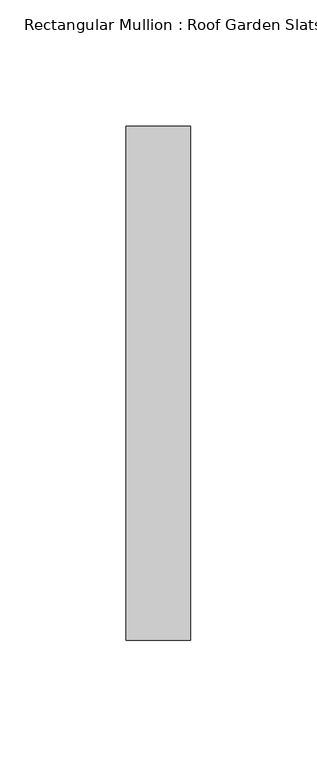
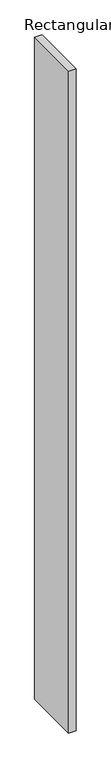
"""IFC4 building model written with IfcOpenShell, lengths in millimetres: member geometry, Rectangular Mullion : Roof Garden Slats."""

from ifc_helpers import new_model, si_unit, frame, origin, place, context, project, spatial, polyline, outline, extrude, source, transform, mapped, element, save


def rectangular_mullion_roof_garden_slats_04b44e5b(model_context):
    return source(origin(), model_context, "Body", "SweptSolid", [
        extrude(outline(polyline([(12.7, 139.7), (12.7, -63.5), (-12.7, -63.5), (-12.7, 139.7), (12.7, 139.7)])), frame((0.0, 0.0, -2417.4891163), z_axis=(0.0, 0.0, 1.0), x_axis=(1.0, 0.0, 0.0)), (0.0, 0.0, 1.0), 2417.4891163),
    ])


if __name__ == "__main__":
    model = new_model("IFC4")
    model_context = context("Model", 3, world=origin())
    ifc_project = project(units=[si_unit("LENGTHUNIT", "METRE", prefix="MILLI")], contexts=[model_context])
    site = spatial("IfcSite", under=ifc_project)
    building = spatial("IfcBuilding", under=site)
    placement = place(None, origin())
    rectangular_mullion_roof_garden_slats_shape = rectangular_mullion_roof_garden_slats_04b44e5b(model_context)
    element("IfcMember", 1, ObjectType="Rectangular Mullion : Roof Garden Slats", at=placement, inside=building, context=model_context, shape_type="MappedRepresentation", body=[
        mapped(rectangular_mullion_roof_garden_slats_shape, transform((0.0, 0.0, 0.0), x_axis=(1.0, 0.0, 0.0), y_axis=(0.0, 1.0, 0.0), z_axis=(0.0, 0.0, 1.0))),
    ])
    save(model, "model.ifc")
